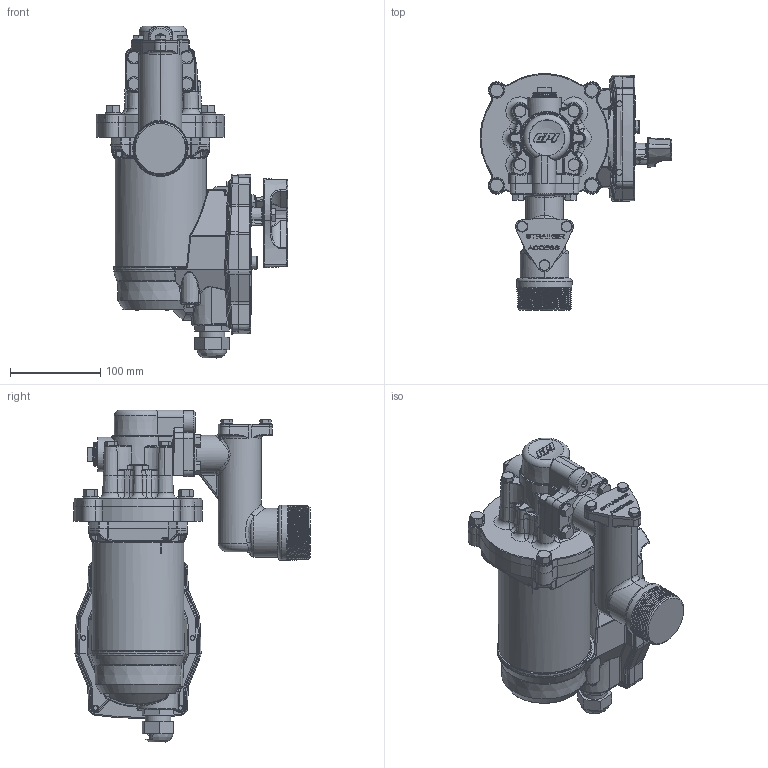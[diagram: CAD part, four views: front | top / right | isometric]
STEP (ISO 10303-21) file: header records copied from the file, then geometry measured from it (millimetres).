
FILE_DESCRIPTION(/* description */ (''),/* implementation_level */ '2;1');
FILE_NAME(/* name */ '142101-05_WEB.stp',/* time_stamp */ '2023-10-09T11:10:00-05:00',/* author */ ('gdanhar'),/* organization */ (''),/* preprocessor_version */ 'ST-DEVELOPER v20',/* originating_system */ 'Autodesk Inventor 2024',/* authorisation */ '');
FILE_SCHEMA (('AUTOMOTIVE_DESIGN { 1 0 10303 214 3 1 1 }'));
Length unit declared in the file: inch
Products named in the file (1): 142101-05_WEB
Bounding box: 212.5 x 262.16 x 368.22 mm (x, y, z)
Volume: 3951156.7 mm3; surface area: 291422.9 mm2
Topology: 1 solids, 1 shells, 4524 faces, 11713 edges, 7304 vertices
Faces by surface type: plane 1968, bspline 1235, cylinder 647, cone 307, torus 266, sphere 101
Full cylindrical faces by diameter (mm): 4.978 x10, 5 x1, 6 x4, 6.35 x2, 7.574 x4, 7.62 x4, 7.798 x4, 7.925 x1, 8.09 x12, 8.738 x4, 9.487 x1, 9.512 x4, 9.525 x10, 10 x1, 10.516 x1, 11.125 x3, 11.989 x3, 12.7 x4, 12.706 x1, 13 x4, 15.494 x4, 18.542 x1, 25.4 x1, 28.575 x1, 38.1 x1, 101.6 x1
Entity records: 181158 total; most frequent: CARTESIAN_POINT 75193, ORIENTED_EDGE 23260, DIRECTION 17608, EDGE_CURVE 11630, VERTEX_POINT 7302, AXIS2_PLACEMENT_3D 5923, LINE 5762, VECTOR 5762
